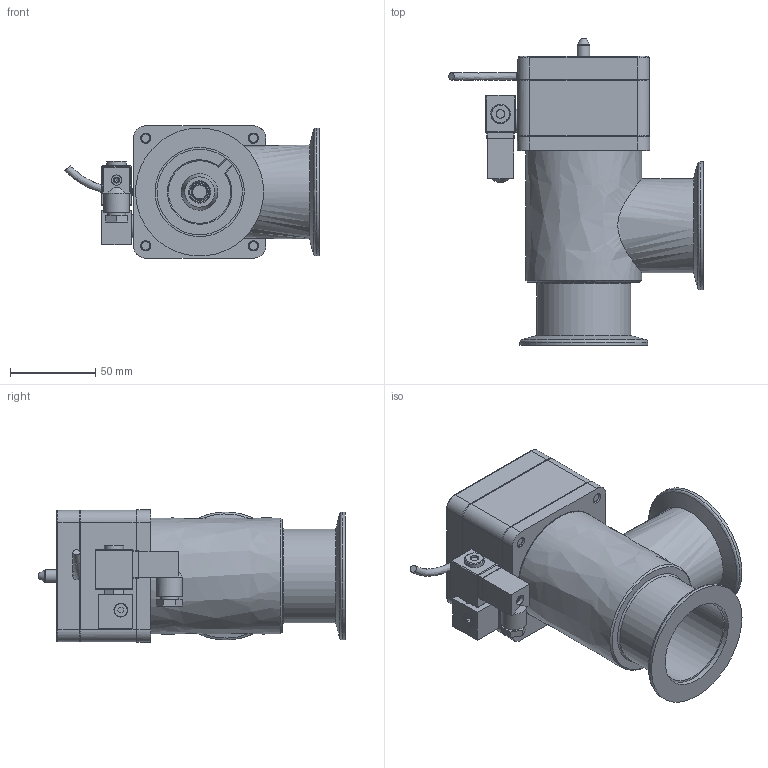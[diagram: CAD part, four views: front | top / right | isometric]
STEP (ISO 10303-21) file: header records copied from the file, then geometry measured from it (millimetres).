
FILE_DESCRIPTION((''),'2;1');
FILE_NAME('O:\MT\MT\Systeme\Cad\Datenexporte\www_vat_ch\248225.stp','2004-06-25T10:14:50',('User'),('SDRC'),'I-DEAS Master Series 9','UNIX','Yes');
FILE_SCHEMA(('CONFIG_CONTROL_DESIGN'));
Length unit declared in the file: millimetre
Assembly tree (21 placements, depth 0):
Bounding box: 148.9 x 179.5 x 77.4 mm (x, y, z)
Volume: 169378.7 mm3; surface area: 167680.2 mm2
Topology: 24 solids, 27 shells, 752 faces, 1811 edges, 1186 vertices
Faces by surface type: bspline 752
Entity records: 23312 total; most frequent: CARTESIAN_POINT 11533, ORIENTED_EDGE 3092, EDGE_CURVE 1546, VERTEX_POINT 998, EDGE_LOOP 763, FACE_OUTER_BOUND 642, ADVANCED_FACE 642, QUASI_UNIFORM_CURVE 575
